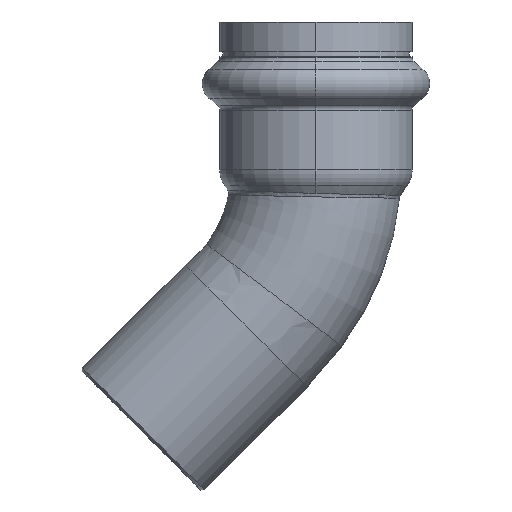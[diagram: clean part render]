
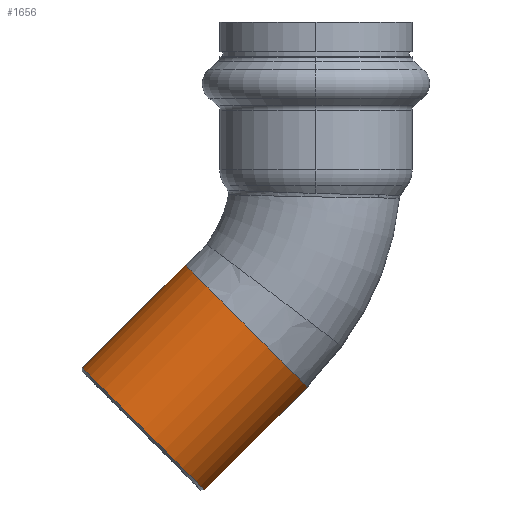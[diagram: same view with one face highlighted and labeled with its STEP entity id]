
A CAD part, left-side view. The second image highlights one B-rep face of the part: STEP entity #1656.
In plain terms, the highlighted cylindrical face has radius 14 mm (diameter 28 mm), a partial arc.
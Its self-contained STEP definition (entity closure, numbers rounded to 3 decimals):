
#94 = EDGE_LOOP ( 'NONE', ( #496, #284, #431, #516 ) ) ;
#147 = AXIS2_PLACEMENT_3D ( 'NONE', #1451, #1456, #1457 ) ;
#208 = VECTOR ( 'NONE', #801, 1000. ) ;
#275 = EDGE_CURVE ( 'NONE', #480, #333, #2359, .T. ) ;
#284 = ORIENTED_EDGE ( 'NONE', *, *, #275, .T. ) ;
#300 = CYLINDRICAL_SURFACE ( 'NONE', #1214, 14. ) ;
#333 = VERTEX_POINT ( 'NONE', #958 ) ;
#354 = FACE_OUTER_BOUND ( 'NONE', #94, .T. ) ;
#365 = EDGE_CURVE ( 'NONE', #757, #980, #1283, .T. ) ;
#431 = ORIENTED_EDGE ( 'NONE', *, *, #2058, .T. ) ;
#480 = VERTEX_POINT ( 'NONE', #2269 ) ;
#496 = ORIENTED_EDGE ( 'NONE', *, *, #2045, .F. ) ;
#516 = ORIENTED_EDGE ( 'NONE', *, *, #365, .T. ) ;
#601 = LINE ( 'NONE', #809, #208 ) ;
#757 = VERTEX_POINT ( 'NONE', #1729 ) ;
#801 = DIRECTION ( 'NONE',  ( 0., 0.707, -0.707 ) ) ;
#809 = CARTESIAN_POINT ( 'NONE',  ( 0., 34.271, -14.472 ) ) ;
#835 = DIRECTION ( 'NONE',  ( 0., 0.707, 0.707 ) ) ;
#958 = CARTESIAN_POINT ( 'NONE',  ( 0., 21.213, -1.414 ) ) ;
#980 = VERTEX_POINT ( 'NONE', #1895 ) ;
#992 = DIRECTION ( 'NONE',  ( 0., 0.707, -0.707 ) ) ;
#1018 = CARTESIAN_POINT ( 'NONE',  ( 0., 24.371, -24.371 ) ) ;
#1214 = AXIS2_PLACEMENT_3D ( 'NONE', #1018, #992, #835 ) ;
#1283 = CIRCLE ( 'NONE', #1884, 14. ) ;
#1295 = DIRECTION ( 'NONE',  ( 0., 0.707, -0.707 ) ) ;
#1415 = VECTOR ( 'NONE', #1295, 1000. ) ;
#1451 = CARTESIAN_POINT ( 'NONE',  ( 0., 11.314, -11.314 ) ) ;
#1456 = DIRECTION ( 'NONE',  ( 0., 0.707, -0.707 ) ) ;
#1457 = DIRECTION ( 'NONE',  ( 0., 0.707, 0.707 ) ) ;
#1656 = ADVANCED_FACE ( 'NONE', ( #354 ), #300, .T. ) ;
#1729 = CARTESIAN_POINT ( 'NONE',  ( 0., 37.901, -18.102 ) ) ;
#1884 = AXIS2_PLACEMENT_3D ( 'NONE', #2412, #2407, #2511 ) ;
#1895 = CARTESIAN_POINT ( 'NONE',  ( 0., 18.102, -37.901 ) ) ;
#2045 = EDGE_CURVE ( 'NONE', #480, #980, #2280, .T. ) ;
#2058 = EDGE_CURVE ( 'NONE', #333, #757, #601, .T. ) ;
#2269 = CARTESIAN_POINT ( 'NONE',  ( 0., 1.414, -21.213 ) ) ;
#2280 = LINE ( 'NONE', #2468, #1415 ) ;
#2359 = CIRCLE ( 'NONE', #147, 14. ) ;
#2407 = DIRECTION ( 'NONE',  ( 0., -0.707, 0.707 ) ) ;
#2412 = CARTESIAN_POINT ( 'NONE',  ( 0., 28.001, -28.001 ) ) ;
#2468 = CARTESIAN_POINT ( 'NONE',  ( 0., 14.472, -34.271 ) ) ;
#2511 = DIRECTION ( 'NONE',  ( 0., 0.707, 0.707 ) ) ;
